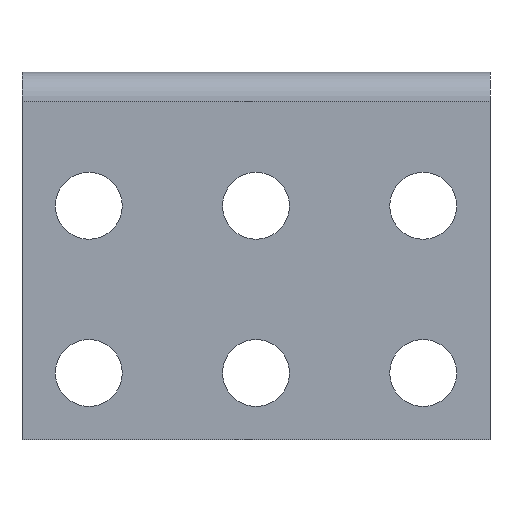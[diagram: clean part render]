
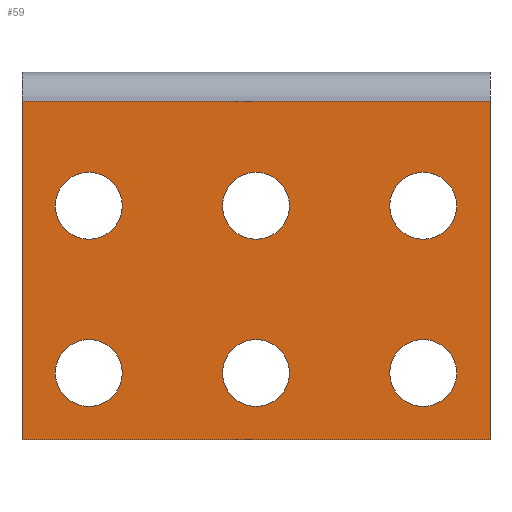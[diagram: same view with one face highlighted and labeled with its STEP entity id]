
A CAD part, front view. The second image highlights one B-rep face of the part: STEP entity #59.
In plain terms, the highlighted planar face has unit normal (0, -1, 0).
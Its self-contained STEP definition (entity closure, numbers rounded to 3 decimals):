
#59 = ADVANCED_FACE( '', ( #117, #118, #119, #120, #121, #122, #123 ), #124, .T. );
#117 = FACE_BOUND( '', #205, .T. );
#118 = FACE_BOUND( '', #206, .T. );
#119 = FACE_BOUND( '', #207, .T. );
#120 = FACE_BOUND( '', #208, .T. );
#121 = FACE_BOUND( '', #209, .T. );
#122 = FACE_BOUND( '', #210, .T. );
#123 = FACE_OUTER_BOUND( '', #211, .T. );
#124 = PLANE( '', #212 );
#205 = EDGE_LOOP( '', ( #392 ) );
#206 = EDGE_LOOP( '', ( #393 ) );
#207 = EDGE_LOOP( '', ( #394 ) );
#208 = EDGE_LOOP( '', ( #395 ) );
#209 = EDGE_LOOP( '', ( #396 ) );
#210 = EDGE_LOOP( '', ( #397 ) );
#211 = EDGE_LOOP( '', ( #398, #399, #400, #401 ) );
#212 = AXIS2_PLACEMENT_3D( '', #402, #403, #404 );
#392 = ORIENTED_EDGE( '', *, *, #586, .F. );
#393 = ORIENTED_EDGE( '', *, *, #587, .F. );
#394 = ORIENTED_EDGE( '', *, *, #588, .F. );
#395 = ORIENTED_EDGE( '', *, *, #589, .F. );
#396 = ORIENTED_EDGE( '', *, *, #590, .F. );
#397 = ORIENTED_EDGE( '', *, *, #591, .F. );
#398 = ORIENTED_EDGE( '', *, *, #531, .F. );
#399 = ORIENTED_EDGE( '', *, *, #592, .F. );
#400 = ORIENTED_EDGE( '', *, *, #553, .T. );
#401 = ORIENTED_EDGE( '', *, *, #585, .T. );
#402 = CARTESIAN_POINT( '', ( -22.225, 0., 0. ) );
#403 = DIRECTION( '', ( 0., -1., 0. ) );
#404 = DIRECTION( '', ( 0., 0., -1. ) );
#531 = EDGE_CURVE( '', #625, #627, #628, .T. );
#553 = EDGE_CURVE( '', #667, #668, #669, .T. );
#585 = EDGE_CURVE( '', #668, #627, #723, .T. );
#586 = EDGE_CURVE( '', #724, #724, #725, .T. );
#587 = EDGE_CURVE( '', #726, #726, #727, .T. );
#588 = EDGE_CURVE( '', #728, #728, #729, .T. );
#589 = EDGE_CURVE( '', #730, #730, #731, .T. );
#590 = EDGE_CURVE( '', #732, #732, #733, .T. );
#591 = EDGE_CURVE( '', #734, #734, #735, .T. );
#592 = EDGE_CURVE( '', #667, #625, #736, .T. );
#625 = VERTEX_POINT( '', #777 );
#627 = VERTEX_POINT( '', #779 );
#628 = LINE( '', #780, #781 );
#667 = VERTEX_POINT( '', #841 );
#668 = VERTEX_POINT( '', #842 );
#669 = LINE( '', #843, #844 );
#723 = LINE( '', #919, #920 );
#724 = VERTEX_POINT( '', #921 );
#725 = CIRCLE( '', #922, 3.175 );
#726 = VERTEX_POINT( '', #923 );
#727 = CIRCLE( '', #924, 3.175 );
#728 = VERTEX_POINT( '', #925 );
#729 = CIRCLE( '', #926, 3.175 );
#730 = VERTEX_POINT( '', #927 );
#731 = CIRCLE( '', #928, 3.175 );
#732 = VERTEX_POINT( '', #929 );
#733 = CIRCLE( '', #930, 3.175 );
#734 = VERTEX_POINT( '', #931 );
#735 = CIRCLE( '', #932, 3.175 );
#736 = LINE( '', #933, #934 );
#777 = CARTESIAN_POINT( '', ( 22.225, 0., -2.743 ) );
#779 = CARTESIAN_POINT( '', ( 22.225, 0., -34.925 ) );
#780 = CARTESIAN_POINT( '', ( 22.225, 0., 0. ) );
#781 = VECTOR( '', #975, 1000. );
#841 = CARTESIAN_POINT( '', ( -22.225, 0., -2.743 ) );
#842 = CARTESIAN_POINT( '', ( -22.225, 0., -34.925 ) );
#843 = CARTESIAN_POINT( '', ( -22.225, 0., 0. ) );
#844 = VECTOR( '', #997, 1000. );
#919 = CARTESIAN_POINT( '', ( -22.225, 0., -34.925 ) );
#920 = VECTOR( '', #1049, 1000. );
#921 = CARTESIAN_POINT( '', ( -12.7, 0., -12.7 ) );
#922 = AXIS2_PLACEMENT_3D( '', #1050, #1051, #1052 );
#923 = CARTESIAN_POINT( '', ( 3.175, 0., -12.7 ) );
#924 = AXIS2_PLACEMENT_3D( '', #1053, #1054, #1055 );
#925 = CARTESIAN_POINT( '', ( 19.05, 0., -12.7 ) );
#926 = AXIS2_PLACEMENT_3D( '', #1056, #1057, #1058 );
#927 = CARTESIAN_POINT( '', ( 19.05, 0., -28.575 ) );
#928 = AXIS2_PLACEMENT_3D( '', #1059, #1060, #1061 );
#929 = CARTESIAN_POINT( '', ( 3.175, 0., -28.575 ) );
#930 = AXIS2_PLACEMENT_3D( '', #1062, #1063, #1064 );
#931 = CARTESIAN_POINT( '', ( -12.7, 0., -28.575 ) );
#932 = AXIS2_PLACEMENT_3D( '', #1065, #1066, #1067 );
#933 = CARTESIAN_POINT( '', ( -22.225, 0., -2.743 ) );
#934 = VECTOR( '', #1068, 1000. );
#975 = DIRECTION( '', ( 0., 0., -1. ) );
#997 = DIRECTION( '', ( 0., 0., -1. ) );
#1049 = DIRECTION( '', ( 1., 0., 0. ) );
#1050 = CARTESIAN_POINT( '', ( -15.875, 0., -12.7 ) );
#1051 = DIRECTION( '', ( 0., -1., 0. ) );
#1052 = DIRECTION( '', ( 1., 0., 0. ) );
#1053 = CARTESIAN_POINT( '', ( 0., 0., -12.7 ) );
#1054 = DIRECTION( '', ( 0., -1., 0. ) );
#1055 = DIRECTION( '', ( 1., 0., 0. ) );
#1056 = CARTESIAN_POINT( '', ( 15.875, 0., -12.7 ) );
#1057 = DIRECTION( '', ( 0., -1., 0. ) );
#1058 = DIRECTION( '', ( 1., 0., 0. ) );
#1059 = CARTESIAN_POINT( '', ( 15.875, 0., -28.575 ) );
#1060 = DIRECTION( '', ( 0., -1., 0. ) );
#1061 = DIRECTION( '', ( 1., 0., 0. ) );
#1062 = CARTESIAN_POINT( '', ( 0., 0., -28.575 ) );
#1063 = DIRECTION( '', ( 0., -1., 0. ) );
#1064 = DIRECTION( '', ( 1., 0., 0. ) );
#1065 = CARTESIAN_POINT( '', ( -15.875, 0., -28.575 ) );
#1066 = DIRECTION( '', ( 0., -1., 0. ) );
#1067 = DIRECTION( '', ( 1., 0., 0. ) );
#1068 = DIRECTION( '', ( 1., 0., 0. ) );
